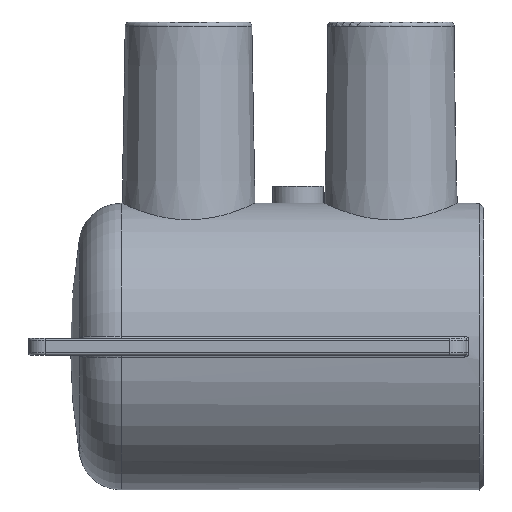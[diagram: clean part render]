
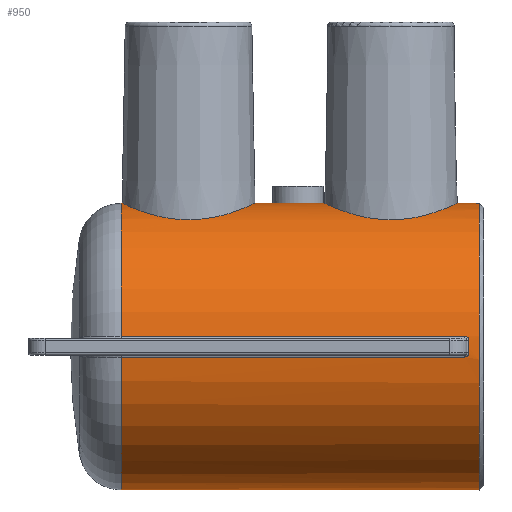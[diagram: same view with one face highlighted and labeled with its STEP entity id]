
A CAD part, front view. The second image highlights one B-rep face of the part: STEP entity #950.
In plain terms, the highlighted cylindrical face has radius 17 mm (diameter 34 mm), a full revolution.
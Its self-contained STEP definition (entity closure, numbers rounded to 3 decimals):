
#62=LINE('',#1567,#104);
#63=LINE('',#1571,#105);
#104=VECTOR('',#1181,1000.);
#105=VECTOR('',#1184,1000.);
#146=CYLINDRICAL_SURFACE('',#1037,17.);
#174=CIRCLE('',#1038,17.);
#175=CIRCLE('',#1039,17.);
#176=CIRCLE('',#1040,17.);
#247=ORIENTED_EDGE('',*,*,#519,.F.);
#248=ORIENTED_EDGE('',*,*,#520,.T.);
#249=ORIENTED_EDGE('',*,*,#521,.F.);
#250=ORIENTED_EDGE('',*,*,#522,.T.);
#251=ORIENTED_EDGE('',*,*,#523,.F.);
#252=ORIENTED_EDGE('',*,*,#524,.T.);
#253=ORIENTED_EDGE('',*,*,#525,.F.);
#254=ORIENTED_EDGE('',*,*,#526,.T.);
#255=ORIENTED_EDGE('',*,*,#527,.F.);
#256=ORIENTED_EDGE('',*,*,#528,.T.);
#519=EDGE_CURVE('',#655,#655,#740,.T.);
#520=EDGE_CURVE('',#656,#656,#174,.F.);
#521=EDGE_CURVE('',#657,#657,#741,.T.);
#522=EDGE_CURVE('',#658,#658,#742,.T.);
#523=EDGE_CURVE('',#659,#660,#743,.T.);
#524=EDGE_CURVE('',#659,#661,#62,.T.);
#525=EDGE_CURVE('',#662,#661,#175,.T.);
#526=EDGE_CURVE('',#662,#663,#63,.F.);
#527=EDGE_CURVE('',#664,#663,#744,.T.);
#528=EDGE_CURVE('',#664,#660,#176,.T.);
#655=VERTEX_POINT('',#1518);
#656=VERTEX_POINT('',#1520);
#657=VERTEX_POINT('',#1540);
#658=VERTEX_POINT('',#1560);
#659=VERTEX_POINT('',#1565);
#660=VERTEX_POINT('',#1566);
#661=VERTEX_POINT('',#1568);
#662=VERTEX_POINT('',#1570);
#663=VERTEX_POINT('',#1572);
#664=VERTEX_POINT('',#1577);
#740=B_SPLINE_CURVE_WITH_KNOTS('',3,(#1498,#1499,#1500,#1501,#1502,#1503,
#1504,#1505,#1506,#1507,#1508,#1509,#1510,#1511,#1512,#1513,#1514,#1515,
#1516,#1517),.UNSPECIFIED.,.T.,.F.,(1,1,1,1,1,1,1,1,1,1,1,1,1,1,1,1,1,1,
1,1,1,1,1,1),(-0.004,-0.003,-0.001,
0.,0.001,0.003,0.004,0.006,
0.006,0.007,0.008,0.01,
0.011,0.012,0.014,0.015,
0.017,0.018,0.019,0.021,
0.022,0.024,0.025,0.026),
 .UNSPECIFIED.);
#741=B_SPLINE_CURVE_WITH_KNOTS('',3,(#1521,#1522,#1523,#1524,#1525,#1526,
#1527,#1528,#1529,#1530,#1531,#1532,#1533,#1534,#1535,#1536,#1537,#1538,
#1539),.UNSPECIFIED.,.T.,.F.,(1,1,1,1,1,1,1,1,1,1,1,1,1,1,1,1,1,1,1,1,1,
1,1),(-0.009,-0.006,-0.003,0.,
0.003,0.006,0.009,0.013,
0.016,0.019,0.022,0.025,
0.028,0.031,0.034,0.038,
0.041,0.044,0.047,0.05,
0.053,0.056,0.059),.UNSPECIFIED.);
#742=B_SPLINE_CURVE_WITH_KNOTS('',3,(#1541,#1542,#1543,#1544,#1545,#1546,
#1547,#1548,#1549,#1550,#1551,#1552,#1553,#1554,#1555,#1556,#1557,#1558,
#1559),.UNSPECIFIED.,.T.,.F.,(1,1,1,1,1,1,1,1,1,1,1,1,1,1,1,1,1,1,1,1,1,
1,1),(-0.009,-0.006,-0.003,0.,
0.003,0.006,0.009,0.013,
0.016,0.019,0.022,0.025,
0.028,0.031,0.034,0.038,
0.041,0.044,0.047,0.05,
0.053,0.056,0.059),.UNSPECIFIED.);
#743=B_SPLINE_CURVE_WITH_KNOTS('',3,(#1561,#1562,#1563,#1564),
 .UNSPECIFIED.,.F.,.F.,(4,4),(0.,0.001),.UNSPECIFIED.);
#744=B_SPLINE_CURVE_WITH_KNOTS('',3,(#1573,#1574,#1575,#1576),
 .UNSPECIFIED.,.F.,.F.,(4,4),(0.,0.001),.UNSPECIFIED.);
#763=EDGE_LOOP('',(#247));
#764=EDGE_LOOP('',(#248));
#765=EDGE_LOOP('',(#249));
#766=EDGE_LOOP('',(#250));
#767=EDGE_LOOP('',(#251,#252,#253,#254,#255,#256));
#855=FACE_BOUND('',#763,.T.);
#856=FACE_BOUND('',#764,.T.);
#857=FACE_BOUND('',#765,.T.);
#858=FACE_BOUND('',#766,.T.);
#859=FACE_BOUND('',#767,.T.);
#950=ADVANCED_FACE('',(#855,#856,#857,#858,#859),#146,.T.);
#1037=AXIS2_PLACEMENT_3D('',#1497,#1177,#1178);
#1038=AXIS2_PLACEMENT_3D('',#1519,#1179,#1180);
#1039=AXIS2_PLACEMENT_3D('',#1569,#1182,#1183);
#1040=AXIS2_PLACEMENT_3D('',#1578,#1185,#1186);
#1177=DIRECTION('',(-1.,0.,0.));
#1178=DIRECTION('',(0.,0.,1.));
#1179=DIRECTION('',(1.,0.,0.));
#1180=DIRECTION('',(0.,0.,-1.));
#1181=DIRECTION('',(-1.,0.,0.));
#1182=DIRECTION('',(-1.,0.,0.));
#1183=DIRECTION('',(0.,0.,1.));
#1184=DIRECTION('',(-1.,0.,0.));
#1185=DIRECTION('',(1.,0.,0.));
#1186=DIRECTION('',(0.,1.,0.));
#1497=CARTESIAN_POINT('',(-27.,0.,0.));
#1498=CARTESIAN_POINT('',(2.374,9.907,13.837));
#1499=CARTESIAN_POINT('',(2.562,11.015,12.974));
#1500=CARTESIAN_POINT('',(2.376,12.033,12.034));
#1501=CARTESIAN_POINT('',(1.881,12.917,11.076));
#1502=CARTESIAN_POINT('',(1.085,13.634,10.171));
#1503=CARTESIAN_POINT('',(0.063,14.012,9.626));
#1504=CARTESIAN_POINT('',(-0.892,14.002,9.641));
#1505=CARTESIAN_POINT('',(-1.754,13.783,9.957));
#1506=CARTESIAN_POINT('',(-2.561,13.263,10.656));
#1507=CARTESIAN_POINT('',(-3.187,12.454,11.596));
#1508=CARTESIAN_POINT('',(-3.518,11.493,12.552));
#1509=CARTESIAN_POINT('',(-3.513,10.422,13.455));
#1510=CARTESIAN_POINT('',(-3.088,9.325,14.233));
#1511=CARTESIAN_POINT('',(-2.177,8.392,14.792));
#1512=CARTESIAN_POINT('',(-0.843,7.907,15.048));
#1513=CARTESIAN_POINT('',(0.583,8.087,14.956));
#1514=CARTESIAN_POINT('',(1.725,8.852,14.527));
#1515=CARTESIAN_POINT('',(2.374,9.907,13.837));
#1516=CARTESIAN_POINT('',(2.562,11.015,12.974));
#1517=CARTESIAN_POINT('',(2.376,12.033,12.034));
#1518=CARTESIAN_POINT('',(2.5,11.,12.961));
#1519=CARTESIAN_POINT('',(21.,0.,0.));
#1520=CARTESIAN_POINT('',(21.,0.,-17.));
#1521=CARTESIAN_POINT('',(-10.701,-7.617,15.213));
#1522=CARTESIAN_POINT('',(-8.037,-5.968,15.971));
#1523=CARTESIAN_POINT('',(-6.196,-3.465,16.728));
#1524=CARTESIAN_POINT('',(-5.421,-0.37,17.098));
#1525=CARTESIAN_POINT('',(-5.915,2.8,16.859));
#1526=CARTESIAN_POINT('',(-7.545,5.472,16.156));
#1527=CARTESIAN_POINT('',(-10.031,7.326,15.363));
#1528=CARTESIAN_POINT('',(-13.119,8.116,14.935));
#1529=CARTESIAN_POINT('',(-16.295,7.616,15.213));
#1530=CARTESIAN_POINT('',(-18.949,5.979,15.966));
#1531=CARTESIAN_POINT('',(-20.796,3.481,16.725));
#1532=CARTESIAN_POINT('',(-21.579,0.384,17.098));
#1533=CARTESIAN_POINT('',(-21.087,-2.798,16.86));
#1534=CARTESIAN_POINT('',(-19.457,-5.47,16.156));
#1535=CARTESIAN_POINT('',(-16.973,-7.324,15.364));
#1536=CARTESIAN_POINT('',(-13.887,-8.116,14.935));
#1537=CARTESIAN_POINT('',(-10.701,-7.617,15.213));
#1538=CARTESIAN_POINT('',(-8.037,-5.968,15.971));
#1539=CARTESIAN_POINT('',(-6.196,-3.465,16.728));
#1540=CARTESIAN_POINT('',(-8.174,-5.826,15.971));
#1541=CARTESIAN_POINT('',(7.701,-7.617,15.213));
#1542=CARTESIAN_POINT('',(5.037,-5.968,15.971));
#1543=CARTESIAN_POINT('',(3.196,-3.465,16.728));
#1544=CARTESIAN_POINT('',(2.421,-0.37,17.098));
#1545=CARTESIAN_POINT('',(2.915,2.8,16.859));
#1546=CARTESIAN_POINT('',(4.545,5.472,16.156));
#1547=CARTESIAN_POINT('',(7.031,7.326,15.363));
#1548=CARTESIAN_POINT('',(10.119,8.116,14.935));
#1549=CARTESIAN_POINT('',(13.295,7.616,15.213));
#1550=CARTESIAN_POINT('',(15.949,5.979,15.966));
#1551=CARTESIAN_POINT('',(17.796,3.481,16.725));
#1552=CARTESIAN_POINT('',(18.579,0.384,17.098));
#1553=CARTESIAN_POINT('',(18.087,-2.798,16.86));
#1554=CARTESIAN_POINT('',(16.457,-5.47,16.156));
#1555=CARTESIAN_POINT('',(13.973,-7.324,15.364));
#1556=CARTESIAN_POINT('',(10.887,-8.116,14.935));
#1557=CARTESIAN_POINT('',(7.701,-7.617,15.213));
#1558=CARTESIAN_POINT('',(5.037,-5.968,15.971));
#1559=CARTESIAN_POINT('',(3.196,-3.465,16.728));
#1560=CARTESIAN_POINT('',(5.174,-5.826,15.971));
#1561=CARTESIAN_POINT('',(19.25,-16.955,-1.232));
#1562=CARTESIAN_POINT('',(19.512,-16.955,-1.232));
#1563=CARTESIAN_POINT('',(19.75,-16.973,-1.001));
#1564=CARTESIAN_POINT('',(19.75,-16.984,-0.739));
#1565=CARTESIAN_POINT('',(19.25,-16.955,-1.232));
#1566=CARTESIAN_POINT('',(19.75,-16.984,-0.739));
#1567=CARTESIAN_POINT('',(-27.,-16.955,-1.232));
#1568=CARTESIAN_POINT('',(-21.5,-16.955,-1.232));
#1569=CARTESIAN_POINT('',(-21.5,0.,0.));
#1570=CARTESIAN_POINT('',(-21.5,-16.955,1.232));
#1571=CARTESIAN_POINT('',(-27.,-16.955,1.232));
#1572=CARTESIAN_POINT('',(19.25,-16.955,1.232));
#1573=CARTESIAN_POINT('',(19.75,-16.984,0.739));
#1574=CARTESIAN_POINT('',(19.75,-16.973,1.001));
#1575=CARTESIAN_POINT('',(19.512,-16.955,1.232));
#1576=CARTESIAN_POINT('',(19.25,-16.955,1.232));
#1577=CARTESIAN_POINT('',(19.75,-16.984,0.739));
#1578=CARTESIAN_POINT('',(19.75,0.,0.));
